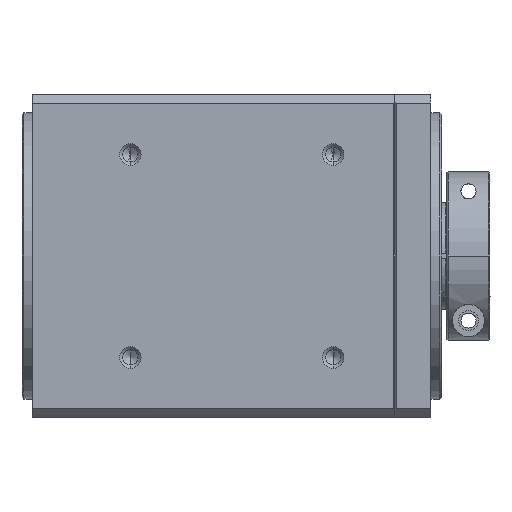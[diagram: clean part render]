
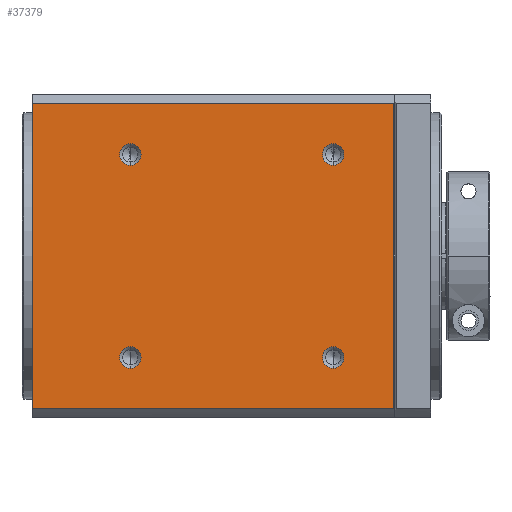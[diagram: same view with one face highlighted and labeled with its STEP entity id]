
A CAD part, left-side view. The second image highlights one B-rep face of the part: STEP entity #37379.
In plain terms, the highlighted planar face has unit normal (-1, 0, 0).
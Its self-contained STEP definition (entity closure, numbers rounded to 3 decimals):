
#522 = CARTESIAN_POINT ( 'NONE',  ( -45., 33.784, -31.284 ) ) ;
#526 = CARTESIAN_POINT ( 'NONE',  ( -45., -39.7, -42.65 ) ) ;
#576 = CARTESIAN_POINT ( 'NONE',  ( -45., -39.7, 42.65 ) ) ;
#580 = CARTESIAN_POINT ( 'NONE',  ( -45., 61., 42.65 ) ) ;
#626 = CARTESIAN_POINT ( 'NONE',  ( -45., -22.784, 25.284 ) ) ;
#631 = CARTESIAN_POINT ( 'NONE',  ( -45., 33.784, 25.284 ) ) ;
#7719 = ORIENTED_EDGE ( 'NONE', *, *, #43383, .T. ) ;
#7763 = ORIENTED_EDGE ( 'NONE', *, *, #43517, .T. ) ;
#14052 = AXIS2_PLACEMENT_3D ( 'NONE', #15923, #15927, #15928 ) ;
#14389 = VERTEX_POINT ( 'NONE', #44075 ) ;
#14399 = VERTEX_POINT ( 'NONE', #44078 ) ;
#14495 = VERTEX_POINT ( 'NONE', #44094 ) ;
#14500 = VERTEX_POINT ( 'NONE', #44091 ) ;
#14607 = VERTEX_POINT ( 'NONE', #44151 ) ;
#14623 = VERTEX_POINT ( 'NONE', #44155 ) ;
#15916 = PLANE ( 'NONE',  #14052 ) ;
#15919 = FACE_OUTER_BOUND ( 'NONE', #43926, .T. ) ;
#15920 = FACE_BOUND ( 'NONE', #43923, .T. ) ;
#15922 = FACE_BOUND ( 'NONE', #43890, .T. ) ;
#15923 = CARTESIAN_POINT ( 'NONE',  ( -45., -39.7, -42.65 ) ) ;
#15924 = FACE_BOUND ( 'NONE', #43785, .T. ) ;
#15926 = FACE_BOUND ( 'NONE', #42937, .T. ) ;
#15927 = DIRECTION ( 'NONE',  ( -1., 0., 0. ) ) ;
#15928 = DIRECTION ( 'NONE',  ( 0., 0., 1. ) ) ;
#27585 = CARTESIAN_POINT ( 'NONE',  ( -45., 33.784, -28.284 ) ) ;
#27586 = DIRECTION ( 'NONE',  ( 1., 0., 0. ) ) ;
#27587 = DIRECTION ( 'NONE',  ( 0., 0., 1. ) ) ;
#27597 = CARTESIAN_POINT ( 'NONE',  ( -45., 33.784, 28.284 ) ) ;
#27598 = DIRECTION ( 'NONE',  ( 1., 0., 0. ) ) ;
#27599 = DIRECTION ( 'NONE',  ( 0., 0., 1. ) ) ;
#27609 = CARTESIAN_POINT ( 'NONE',  ( -45., -22.784, 28.284 ) ) ;
#27610 = DIRECTION ( 'NONE',  ( 1., 0., 0. ) ) ;
#27611 = DIRECTION ( 'NONE',  ( 0., 0., 1. ) ) ;
#27623 = CARTESIAN_POINT ( 'NONE',  ( -45., -22.784, -28.284 ) ) ;
#27624 = DIRECTION ( 'NONE',  ( 1., 0., 0. ) ) ;
#27625 = DIRECTION ( 'NONE',  ( 0., 0., 1. ) ) ;
#27990 = CARTESIAN_POINT ( 'NONE',  ( -45., -22.784, -28.284 ) ) ;
#27991 = DIRECTION ( 'NONE',  ( 1., 0., 0. ) ) ;
#27992 = DIRECTION ( 'NONE',  ( 0., 0., 1. ) ) ;
#27993 = CARTESIAN_POINT ( 'NONE',  ( -45., -22.784, 28.284 ) ) ;
#27994 = DIRECTION ( 'NONE',  ( 1., 0., 0. ) ) ;
#27995 = DIRECTION ( 'NONE',  ( 0., 0., 1. ) ) ;
#27996 = CARTESIAN_POINT ( 'NONE',  ( -45., 33.784, 28.284 ) ) ;
#27997 = DIRECTION ( 'NONE',  ( 1., 0., 0. ) ) ;
#27998 = DIRECTION ( 'NONE',  ( 0., 0., 1. ) ) ;
#27999 = CARTESIAN_POINT ( 'NONE',  ( -45., 33.784, -28.284 ) ) ;
#28000 = DIRECTION ( 'NONE',  ( 1., 0., 0. ) ) ;
#28001 = DIRECTION ( 'NONE',  ( 0., 0., 1. ) ) ;
#28070 = LINE ( 'NONE', #28071, #31416 ) ;
#28071 = CARTESIAN_POINT ( 'NONE',  ( -45., -39.7, 0. ) ) ;
#28072 = DIRECTION ( 'NONE',  ( 0., 0., 1. ) ) ;
#28122 = LINE ( 'NONE', #28131, #31447 ) ;
#28131 = CARTESIAN_POINT ( 'NONE',  ( -45., 10.5, -42.65 ) ) ;
#28171 = DIRECTION ( 'NONE',  ( 0., -1., 0. ) ) ;
#28172 = LINE ( 'NONE', #28173, #31451 ) ;
#28173 = CARTESIAN_POINT ( 'NONE',  ( -45., 10.5, 42.65 ) ) ;
#28174 = DIRECTION ( 'NONE',  ( 0., 1., 0. ) ) ;
#28175 = LINE ( 'NONE', #28177, #31452 ) ;
#28177 = CARTESIAN_POINT ( 'NONE',  ( -45., 61., 0. ) ) ;
#28178 = DIRECTION ( 'NONE',  ( 0., 0., 1. ) ) ;
#31193 = CIRCLE ( 'NONE', #31195, 3. ) ;
#31195 = AXIS2_PLACEMENT_3D ( 'NONE', #27585, #27586, #27587 ) ;
#31199 = CIRCLE ( 'NONE', #31201, 3. ) ;
#31201 = AXIS2_PLACEMENT_3D ( 'NONE', #27597, #27598, #27599 ) ;
#31205 = CIRCLE ( 'NONE', #31207, 3. ) ;
#31207 = AXIS2_PLACEMENT_3D ( 'NONE', #27609, #27610, #27611 ) ;
#31211 = CIRCLE ( 'NONE', #31213, 3. ) ;
#31213 = AXIS2_PLACEMENT_3D ( 'NONE', #27623, #27624, #27625 ) ;
#31377 = CIRCLE ( 'NONE', #31380, 3. ) ;
#31379 = CIRCLE ( 'NONE', #31382, 3. ) ;
#31380 = AXIS2_PLACEMENT_3D ( 'NONE', #27990, #27991, #27992 ) ;
#31381 = CIRCLE ( 'NONE', #31384, 3. ) ;
#31382 = AXIS2_PLACEMENT_3D ( 'NONE', #27993, #27994, #27995 ) ;
#31383 = CIRCLE ( 'NONE', #31386, 3. ) ;
#31384 = AXIS2_PLACEMENT_3D ( 'NONE', #27996, #27997, #27998 ) ;
#31386 = AXIS2_PLACEMENT_3D ( 'NONE', #27999, #28000, #28001 ) ;
#31416 = VECTOR ( 'NONE', #28072, 1000. ) ;
#31447 = VECTOR ( 'NONE', #28171, 1000. ) ;
#31451 = VECTOR ( 'NONE', #28174, 1000. ) ;
#31452 = VECTOR ( 'NONE', #28178, 1000. ) ;
#33232 = VERTEX_POINT ( 'NONE', #522 ) ;
#33242 = VERTEX_POINT ( 'NONE', #526 ) ;
#33560 = VERTEX_POINT ( 'NONE', #576 ) ;
#33564 = VERTEX_POINT ( 'NONE', #580 ) ;
#33620 = VERTEX_POINT ( 'NONE', #626 ) ;
#33635 = VERTEX_POINT ( 'NONE', #631 ) ;
#36098 = ORIENTED_EDGE ( 'NONE', *, *, #43514, .T. ) ;
#36099 = ORIENTED_EDGE ( 'NONE', *, *, #43560, .T. ) ;
#36100 = ORIENTED_EDGE ( 'NONE', *, *, #43539, .T. ) ;
#36101 = ORIENTED_EDGE ( 'NONE', *, *, #43561, .T. ) ;
#36105 = ORIENTED_EDGE ( 'NONE', *, *, #43562, .F. ) ;
#36134 = ORIENTED_EDGE ( 'NONE', *, *, #43387, .T. ) ;
#36135 = ORIENTED_EDGE ( 'NONE', *, *, #43391, .T. ) ;
#36136 = ORIENTED_EDGE ( 'NONE', *, *, #43515, .T. ) ;
#36138 = ORIENTED_EDGE ( 'NONE', *, *, #43516, .T. ) ;
#36360 = ORIENTED_EDGE ( 'NONE', *, *, #43395, .T. ) ;
#37379 = ADVANCED_FACE ( 'NONE', ( #15920, #15922, #15924, #15926, #15919 ), #15916, .T. ) ;
#42937 = EDGE_LOOP ( 'NONE', ( #36360, #36098 ) ) ;
#43383 = EDGE_CURVE ( 'NONE', #14389, #33232, #31193, .T. ) ;
#43387 = EDGE_CURVE ( 'NONE', #14495, #33635, #31199, .T. ) ;
#43391 = EDGE_CURVE ( 'NONE', #14607, #33620, #31205, .T. ) ;
#43395 = EDGE_CURVE ( 'NONE', #14500, #14399, #31211, .T. ) ;
#43514 = EDGE_CURVE ( 'NONE', #14399, #14500, #31377, .T. ) ;
#43515 = EDGE_CURVE ( 'NONE', #33620, #14607, #31379, .T. ) ;
#43516 = EDGE_CURVE ( 'NONE', #33635, #14495, #31381, .T. ) ;
#43517 = EDGE_CURVE ( 'NONE', #33232, #14389, #31383, .T. ) ;
#43539 = EDGE_CURVE ( 'NONE', #33242, #33560, #28070, .T. ) ;
#43560 = EDGE_CURVE ( 'NONE', #14623, #33242, #28122, .T. ) ;
#43561 = EDGE_CURVE ( 'NONE', #33560, #33564, #28172, .T. ) ;
#43562 = EDGE_CURVE ( 'NONE', #14623, #33564, #28175, .T. ) ;
#43785 = EDGE_LOOP ( 'NONE', ( #36135, #36136 ) ) ;
#43890 = EDGE_LOOP ( 'NONE', ( #36134, #36138 ) ) ;
#43923 = EDGE_LOOP ( 'NONE', ( #7719, #7763 ) ) ;
#43926 = EDGE_LOOP ( 'NONE', ( #36099, #36100, #36101, #36105 ) ) ;
#44075 = CARTESIAN_POINT ( 'NONE',  ( -45., 33.784, -25.284 ) ) ;
#44078 = CARTESIAN_POINT ( 'NONE',  ( -45., -22.784, -31.284 ) ) ;
#44091 = CARTESIAN_POINT ( 'NONE',  ( -45., -22.784, -25.284 ) ) ;
#44094 = CARTESIAN_POINT ( 'NONE',  ( -45., 33.784, 31.284 ) ) ;
#44151 = CARTESIAN_POINT ( 'NONE',  ( -45., -22.784, 31.284 ) ) ;
#44155 = CARTESIAN_POINT ( 'NONE',  ( -45., 61., -42.65 ) ) ;
